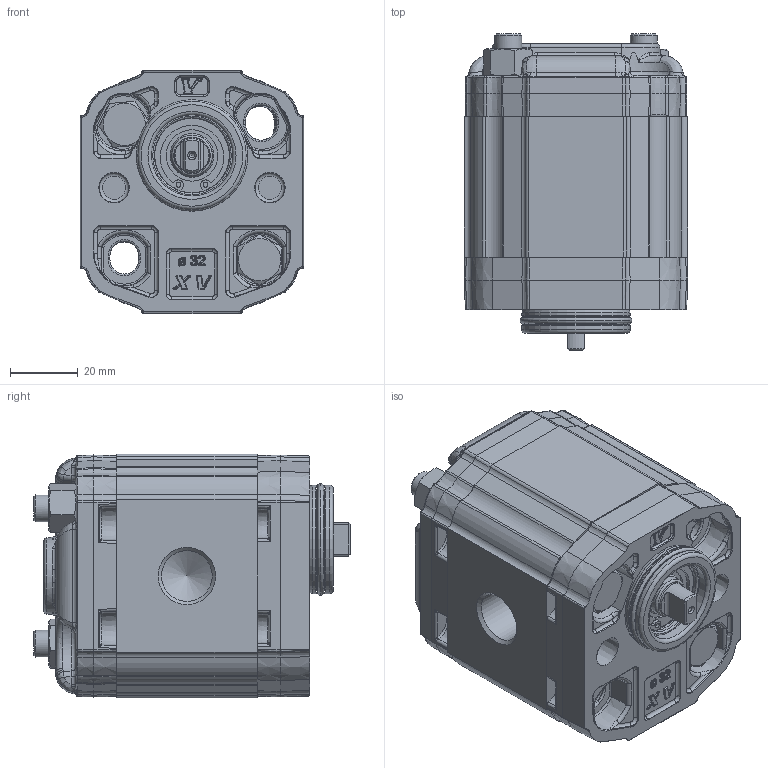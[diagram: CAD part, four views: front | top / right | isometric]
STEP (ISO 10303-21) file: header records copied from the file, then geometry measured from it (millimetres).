
FILE_DESCRIPTION(/* description */ ('Unknown'),/* implementation_level */ '2;1');
FILE_NAME(/* name */ 'X1R1625DBBF',/* time_stamp */ '2026-05-26T18:59:08+02:00',/* author */ ('Unknown'),/* organization */ ('Unknown'),/* preprocessor_version */ 'ST-DEVELOPER v16.7',/* originating_system */ 'Solid Edge',/* authorisation */ 'Unknown');
FILE_SCHEMA (('AUTOMOTIVE_DESIGN {1 0 10303 214 3 1 1}'));
Products named in the file (5): X1R1625DBBF; X1R25; 1D; X1BBH41,5; XR119-F
Assembly tree (4 placements, depth 2):
  X1R1625DBBF
    X1R25
    1D
    X1BBH41,5
    XR119-F
Bounding box: 66 x 93.49 x 72 mm (x, y, z)
Volume: 288958.3 mm3; surface area: 62042.9 mm2
Topology: 4 solids, 5 shells, 2425 faces, 5739 edges, 3363 vertices
Faces by surface type: cylinder 706, bspline 607, plane 521, torus 269, cone 237, sphere 85
Full cylindrical faces by diameter (mm): 1.447 x2, 1.5 x1, 8 x6, 8.5 x3, 9 x2, 10 x1, 10.5 x2, 11.965 x1, 12 x3, 12.923 x1, 14.95 x2, 15.115 x1, 15.181 x1, 19 x1, 20 x1, 22 x2, 22.2 x1, 23 x1, 24 x1, 29.4 x2, 32 x1, 32.96 x1
Entity records: 131756 total; most frequent: CARTESIAN_POINT 62853, ORIENTED_EDGE 11048, DIRECTION 10370, EDGE_CURVE 5524, AXIS2_PLACEMENT_3D 4305, VERTEX_POINT 3316, FACE_BOUND 2652, EDGE_LOOP 2648
